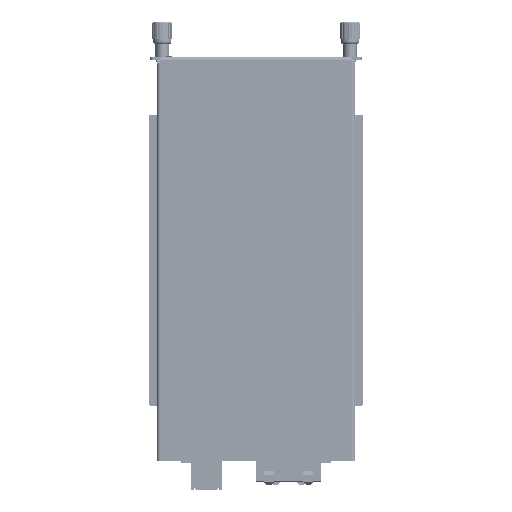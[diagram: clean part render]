
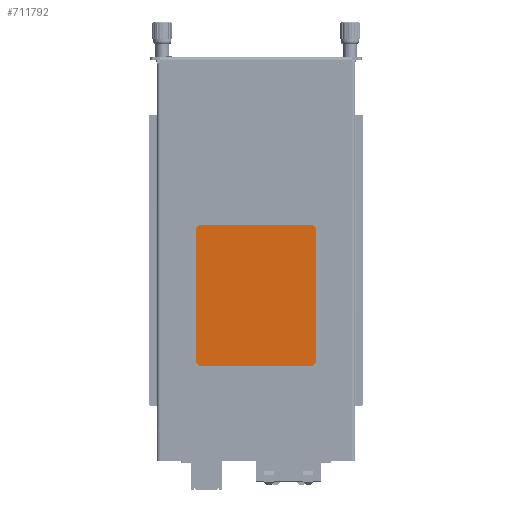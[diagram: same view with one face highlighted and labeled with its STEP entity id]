
A CAD part, front view. The second image highlights one B-rep face of the part: STEP entity #711792.
In plain terms, the highlighted planar face has unit normal (0, 1, 0).
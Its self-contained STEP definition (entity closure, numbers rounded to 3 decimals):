
#705504=CARTESIAN_POINT('',(-21.05,0.3,-66.6));
#705505=DIRECTION('',(0.,-1.,0.));
#705506=DIRECTION('',(0.,0.,1.));
#705507=AXIS2_PLACEMENT_3D('',#705504,#705505,#705506);
#705512=DIRECTION('',(0.,0.,-1.));
#705513=VECTOR('',#705512,50.1);
#705514=CARTESIAN_POINT('',(-23.05,0.3,-66.6));
#705515=LINE('',#705514,#705513);
#705519=CARTESIAN_POINT('',(-21.05,0.3,-116.7));
#705520=DIRECTION('',(0.,-1.,0.));
#705521=DIRECTION('',(-1.,0.,0.));
#705522=AXIS2_PLACEMENT_3D('',#705519,#705520,#705521);
#705527=DIRECTION('',(1.,0.,0.));
#705528=VECTOR('',#705527,42.1);
#705529=CARTESIAN_POINT('',(-21.05,0.3,-118.7));
#705530=LINE('',#705529,#705528);
#705534=CARTESIAN_POINT('',(21.05,0.3,-116.7));
#705535=DIRECTION('',(0.,-1.,0.));
#705536=DIRECTION('',(0.,0.,-1.));
#705537=AXIS2_PLACEMENT_3D('',#705534,#705535,#705536);
#705542=DIRECTION('',(0.,0.,1.));
#705543=VECTOR('',#705542,50.1);
#705544=CARTESIAN_POINT('',(23.05,0.3,-116.7));
#705545=LINE('',#705544,#705543);
#705549=CARTESIAN_POINT('',(21.05,0.3,-66.6));
#705550=DIRECTION('',(0.,-1.,0.));
#705551=DIRECTION('',(1.,0.,0.));
#705552=AXIS2_PLACEMENT_3D('',#705549,#705550,#705551);
#705557=DIRECTION('',(-1.,0.,0.));
#705558=VECTOR('',#705557,42.1);
#705559=CARTESIAN_POINT('',(21.05,0.3,-64.6));
#705560=LINE('',#705559,#705558);
#706609=CARTESIAN_POINT('',(-23.05,0.3,-66.6));
#706610=VERTEX_POINT('',#706609);
#706611=CARTESIAN_POINT('',(-21.05,0.3,-64.6));
#706612=VERTEX_POINT('',#706611);
#706613=CARTESIAN_POINT('',(21.05,0.3,-64.6));
#706614=VERTEX_POINT('',#706613);
#706615=CARTESIAN_POINT('',(23.05,0.3,-66.6));
#706616=VERTEX_POINT('',#706615);
#706617=CARTESIAN_POINT('',(23.05,0.3,-116.7));
#706618=VERTEX_POINT('',#706617);
#706619=CARTESIAN_POINT('',(21.05,0.3,-118.7));
#706620=VERTEX_POINT('',#706619);
#706621=CARTESIAN_POINT('',(-21.05,0.3,-118.7));
#706622=VERTEX_POINT('',#706621);
#706623=CARTESIAN_POINT('',(-23.05,0.3,-116.7));
#706624=VERTEX_POINT('',#706623);
#711777=CARTESIAN_POINT('',(0.,0.3,-91.65));
#711778=DIRECTION('',(0.,1.,0.));
#711779=DIRECTION('',(1.,0.,0.));
#711780=AXIS2_PLACEMENT_3D('',#711777,#711778,#711779);
#711781=PLANE('',#711780);
#711782=ORIENTED_EDGE('',*,*,#711673,.T.);
#711783=ORIENTED_EDGE('',*,*,#711688,.T.);
#711784=ORIENTED_EDGE('',*,*,#711702,.T.);
#711785=ORIENTED_EDGE('',*,*,#711716,.T.);
#711786=ORIENTED_EDGE('',*,*,#711730,.T.);
#711787=ORIENTED_EDGE('',*,*,#711744,.T.);
#711788=ORIENTED_EDGE('',*,*,#711758,.T.);
#711789=ORIENTED_EDGE('',*,*,#711771,.T.);
#711790=EDGE_LOOP('',(#711782,#711783,#711784,#711785,#711786,#711787,#711788,
#711789));
#711791=FACE_OUTER_BOUND('',#711790,.F.);
#705508=CIRCLE('',#705507,2.);
#705523=CIRCLE('',#705522,2.);
#705538=CIRCLE('',#705537,2.);
#705553=CIRCLE('',#705552,2.);
#711673=EDGE_CURVE('',#706612,#706610,#705508,.T.);
#711688=EDGE_CURVE('',#706610,#706624,#705515,.T.);
#711702=EDGE_CURVE('',#706624,#706622,#705523,.T.);
#711716=EDGE_CURVE('',#706622,#706620,#705530,.T.);
#711730=EDGE_CURVE('',#706620,#706618,#705538,.T.);
#711744=EDGE_CURVE('',#706618,#706616,#705545,.T.);
#711758=EDGE_CURVE('',#706616,#706614,#705553,.T.);
#711771=EDGE_CURVE('',#706614,#706612,#705560,.T.);
#711792=ADVANCED_FACE('',(#711791),#711781,.T.);
